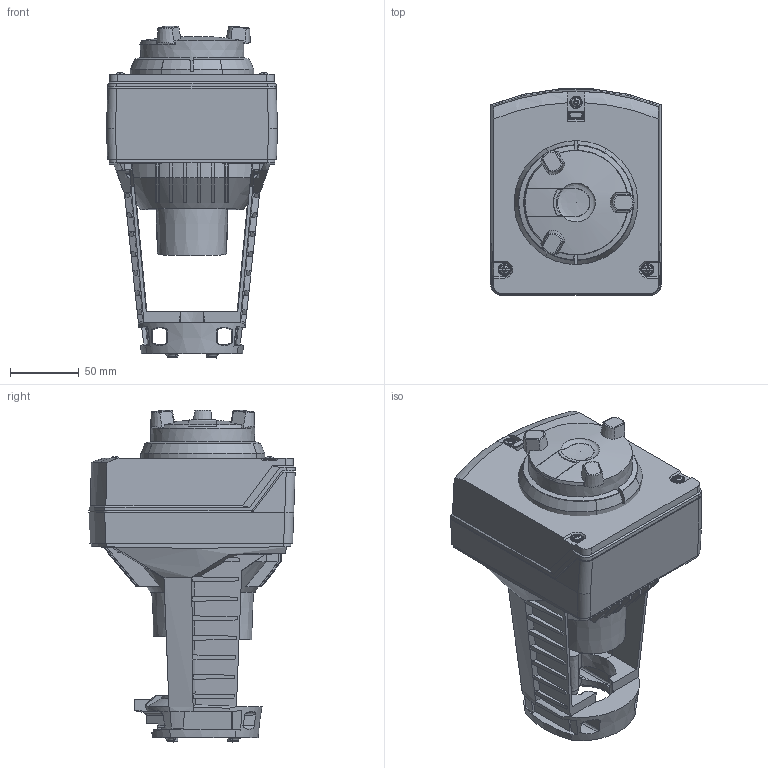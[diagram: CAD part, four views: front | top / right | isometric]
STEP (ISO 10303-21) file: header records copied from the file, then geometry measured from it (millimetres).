
FILE_DESCRIPTION(/* description */ (''),/* implementation_level */ '2;1');
FILE_NAME(/* name */ 'mo6.stp',/* time_stamp */ '2010-11-02T09:03:08+01:00',/* author */ (''),/* organization */ (''),/* preprocessor_version */ 'ST-DEVELOPER v11',/* originating_system */ 'SIEMENS UGS NX 6.0',/* authorisation */ '');
FILE_SCHEMA (('AUTOMOTIVE_DESIGN { 1 0 10303 214 1 1 1 1 }'));
Products named in the file (1): rollC7F58ytv
Bounding box: 124 x 149.51 x 240.66 mm (x, y, z)
Volume: 1833376.5 mm3; surface area: 251109.8 mm2
Topology: 10 solids, 10 shells, 1013 faces, 2758 edges, 1752 vertices
Faces by surface type: plane 466, bspline 191, cylinder 165, cone 89, torus 72, sphere 15, extrusion 12, revolution 3
Full cylindrical faces by diameter (mm): 9 x3
Entity records: 50467 total; most frequent: CARTESIAN_POINT 19942, ORIENTED_EDGE 5432, DIRECTION 4171, EDGE_CURVE 2716, VERTEX_POINT 1740, AXIS2_PLACEMENT_3D 1552, VECTOR 1064, LINE 1052
